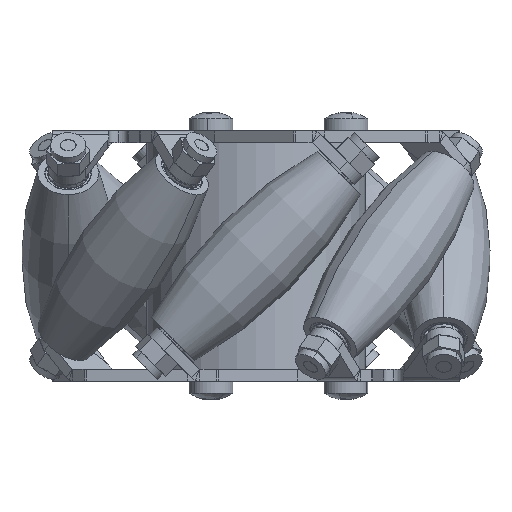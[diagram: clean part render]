
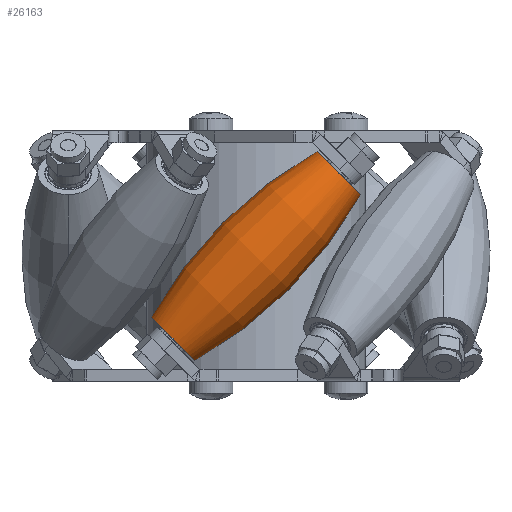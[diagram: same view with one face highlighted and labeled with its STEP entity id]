
A CAD part, left-side view. The second image highlights one B-rep face of the part: STEP entity #26163.
In plain terms, the highlighted face is a revolution surface.
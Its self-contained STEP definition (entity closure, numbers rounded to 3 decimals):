
#25264 = PLANE('',#25265);
#25265 = AXIS2_PLACEMENT_3D('',#25266,#25267,#25268);
#25266 = CARTESIAN_POINT('',(-10.607,-27.,-10.607));
#25267 = DIRECTION('',(-0.707,0.,
    -0.707));
#25268 = DIRECTION('',(0.707,0.,-0.707
    ));
#26045 = PLANE('',#26046);
#26046 = AXIS2_PLACEMENT_3D('',#26047,#26048,#26049);
#26047 = CARTESIAN_POINT('',(10.607,-27.,10.607));
#26048 = DIRECTION('',(0.707,0.,0.707)
  );
#26049 = DIRECTION('',(-0.707,0.,
    0.707));
#26092 = EDGE_CURVE('',#26093,#26095,#26097,.T.);
#26093 = VERTEX_POINT('',#26094);
#26094 = CARTESIAN_POINT('',(7.838,-24.,13.375));
#26095 = VERTEX_POINT('',#26096);
#26096 = CARTESIAN_POINT('',(13.375,-24.,7.838));
#26097 = SURFACE_CURVE('',#26098,(#26103,#26110),.PCURVE_S1.);
#26098 = CIRCLE('',#26099,3.915);
#26099 = AXIS2_PLACEMENT_3D('',#26100,#26101,#26102);
#26100 = CARTESIAN_POINT('',(10.607,-24.,10.607));
#26101 = DIRECTION('',(0.707,0.,0.707)
  );
#26102 = DIRECTION('',(-0.707,0.,
    0.707));
#26103 = PCURVE('',#26045,#26104);
#26104 = DEFINITIONAL_REPRESENTATION('',(#26105),#26109);
#26105 = CIRCLE('',#26106,3.915);
#26106 = AXIS2_PLACEMENT_2D('',#26107,#26108);
#26107 = CARTESIAN_POINT('',(0.,-3.));
#26108 = DIRECTION('',(1.,0.));
#26109 = ( GEOMETRIC_REPRESENTATION_CONTEXT(2) 
PARAMETRIC_REPRESENTATION_CONTEXT() REPRESENTATION_CONTEXT('2D SPACE',''
  ) );
#26110 = PCURVE('',#26111,#26123);
#26111 = SURFACE_OF_REVOLUTION('',#26112,#26120);
#26112 = B_SPLINE_CURVE_WITH_KNOTS('',6,(#26113,#26114,#26115,#26116,
    #26117,#26118,#26119),.UNSPECIFIED.,.F.,.F.,(7,7),(2.865,
    3.418),.PIECEWISE_BEZIER_KNOTS.);
#26113 = CARTESIAN_POINT('',(-7.838,-24.,-13.375));
#26114 = CARTESIAN_POINT('',(-3.417,-24.,-10.906));
#26115 = CARTESIAN_POINT('',(0.733,-24.,-7.949));
#26116 = CARTESIAN_POINT('',(4.541,-24.,-4.541));
#26117 = CARTESIAN_POINT('',(7.949,-24.,-0.733));
#26118 = CARTESIAN_POINT('',(10.906,-24.,3.417));
#26119 = CARTESIAN_POINT('',(13.375,-24.,7.838));
#26120 = AXIS1_PLACEMENT('',#26121,#26122);
#26121 = CARTESIAN_POINT('',(0.,-24.,0.
    ));
#26122 = DIRECTION('',(-0.707,0.,
    -0.707));
#26123 = DEFINITIONAL_REPRESENTATION('',(#26124),#26128);
#26124 = LINE('',#26125,#26126);
#26125 = CARTESIAN_POINT('',(-3.142,3.418));
#26126 = VECTOR('',#26127,1.);
#26127 = DIRECTION('',(-1.,0.));
#26128 = ( GEOMETRIC_REPRESENTATION_CONTEXT(2) 
PARAMETRIC_REPRESENTATION_CONTEXT() REPRESENTATION_CONTEXT('2D SPACE',''
  ) );
#26145 = SURFACE_OF_REVOLUTION('',#26146,#26154);
#26146 = B_SPLINE_CURVE_WITH_KNOTS('',6,(#26147,#26148,#26149,#26150,
    #26151,#26152,#26153),.UNSPECIFIED.,.F.,.F.,(7,7),(2.865,
    3.418),.PIECEWISE_BEZIER_KNOTS.);
#26147 = CARTESIAN_POINT('',(-7.838,-24.,-13.375));
#26148 = CARTESIAN_POINT('',(-3.417,-24.,-10.906));
#26149 = CARTESIAN_POINT('',(0.733,-24.,-7.949));
#26150 = CARTESIAN_POINT('',(4.541,-24.,-4.541));
#26151 = CARTESIAN_POINT('',(7.949,-24.,-0.733));
#26152 = CARTESIAN_POINT('',(10.906,-24.,3.417));
#26153 = CARTESIAN_POINT('',(13.375,-24.,7.838));
#26154 = AXIS1_PLACEMENT('',#26155,#26156);
#26155 = CARTESIAN_POINT('',(0.,-24.,0.
    ));
#26156 = DIRECTION('',(-0.707,0.,
    -0.707));
#26163 = ADVANCED_FACE('',(#26164),#26111,.F.);
#26164 = FACE_BOUND('',#26165,.T.);
#26165 = EDGE_LOOP('',(#26166,#26190,#26218,#26240));
#26166 = ORIENTED_EDGE('',*,*,#26167,.T.);
#26167 = EDGE_CURVE('',#26093,#26168,#26170,.T.);
#26168 = VERTEX_POINT('',#26169);
#26169 = CARTESIAN_POINT('',(-13.375,-24.,-7.838));
#26170 = SURFACE_CURVE('',#26171,(#26176,#26183),.PCURVE_S1.);
#26171 = CIRCLE('',#26172,55.);
#26172 = AXIS2_PLACEMENT_3D('',#26173,#26174,#26175);
#26173 = CARTESIAN_POINT('',(34.648,-24.,-34.648));
#26174 = DIRECTION('',(0.,-1.,0.));
#26175 = DIRECTION('',(0.,0.,-1.));
#26176 = PCURVE('',#26111,#26177);
#26177 = DEFINITIONAL_REPRESENTATION('',(#26178),#26182);
#26178 = LINE('',#26179,#26180);
#26179 = CARTESIAN_POINT('',(-3.142,7.069));
#26180 = VECTOR('',#26181,1.);
#26181 = DIRECTION('',(0.,-1.));
#26182 = ( GEOMETRIC_REPRESENTATION_CONTEXT(2) 
PARAMETRIC_REPRESENTATION_CONTEXT() REPRESENTATION_CONTEXT('2D SPACE',''
  ) );
#26183 = PCURVE('',#26145,#26184);
#26184 = DEFINITIONAL_REPRESENTATION('',(#26185),#26189);
#26185 = LINE('',#26186,#26187);
#26186 = CARTESIAN_POINT('',(-3.142,7.069));
#26187 = VECTOR('',#26188,1.);
#26188 = DIRECTION('',(-0.,-1.));
#26189 = ( GEOMETRIC_REPRESENTATION_CONTEXT(2) 
PARAMETRIC_REPRESENTATION_CONTEXT() REPRESENTATION_CONTEXT('2D SPACE',''
  ) );
#26190 = ORIENTED_EDGE('',*,*,#26191,.T.);
#26191 = EDGE_CURVE('',#26168,#26192,#26194,.T.);
#26192 = VERTEX_POINT('',#26193);
#26193 = CARTESIAN_POINT('',(-7.838,-24.,-13.375));
#26194 = SURFACE_CURVE('',#26195,(#26200,#26207),.PCURVE_S1.);
#26195 = CIRCLE('',#26196,3.915);
#26196 = AXIS2_PLACEMENT_3D('',#26197,#26198,#26199);
#26197 = CARTESIAN_POINT('',(-10.607,-24.,-10.607));
#26198 = DIRECTION('',(0.707,0.,0.707)
  );
#26199 = DIRECTION('',(-0.707,0.,
    0.707));
#26200 = PCURVE('',#26111,#26201);
#26201 = DEFINITIONAL_REPRESENTATION('',(#26202),#26206);
#26202 = LINE('',#26203,#26204);
#26203 = CARTESIAN_POINT('',(-3.142,2.865));
#26204 = VECTOR('',#26205,1.);
#26205 = DIRECTION('',(-1.,0.));
#26206 = ( GEOMETRIC_REPRESENTATION_CONTEXT(2) 
PARAMETRIC_REPRESENTATION_CONTEXT() REPRESENTATION_CONTEXT('2D SPACE',''
  ) );
#26207 = PCURVE('',#25264,#26208);
#26208 = DEFINITIONAL_REPRESENTATION('',(#26209),#26217);
#26209 = ( BOUNDED_CURVE() B_SPLINE_CURVE(2,(#26210,#26211,#26212,#26213
    ,#26214,#26215,#26216),.UNSPECIFIED.,.T.,.F.) 
B_SPLINE_CURVE_WITH_KNOTS((1,2,2,2,2,1),(-2.094,0.,
    2.094,4.189,6.283,8.378),
.UNSPECIFIED.) CURVE() GEOMETRIC_REPRESENTATION_ITEM() 
RATIONAL_B_SPLINE_CURVE((1.,0.5,1.,0.5,1.,0.5,1.)) REPRESENTATION_ITEM(
  '') );
#26210 = CARTESIAN_POINT('',(-3.915,-3.));
#26211 = CARTESIAN_POINT('',(-3.915,3.781));
#26212 = CARTESIAN_POINT('',(1.958,0.391));
#26213 = CARTESIAN_POINT('',(7.83,-3.));
#26214 = CARTESIAN_POINT('',(1.958,-6.391));
#26215 = CARTESIAN_POINT('',(-3.915,-9.781));
#26216 = CARTESIAN_POINT('',(-3.915,-3.));
#26217 = ( GEOMETRIC_REPRESENTATION_CONTEXT(2) 
PARAMETRIC_REPRESENTATION_CONTEXT() REPRESENTATION_CONTEXT('2D SPACE',''
  ) );
#26218 = ORIENTED_EDGE('',*,*,#26219,.F.);
#26219 = EDGE_CURVE('',#26095,#26192,#26220,.T.);
#26220 = SURFACE_CURVE('',#26221,(#26226,#26233),.PCURVE_S1.);
#26221 = CIRCLE('',#26222,55.);
#26222 = AXIS2_PLACEMENT_3D('',#26223,#26224,#26225);
#26223 = CARTESIAN_POINT('',(-34.648,-24.,34.648));
#26224 = DIRECTION('',(0.,1.,0.));
#26225 = DIRECTION('',(0.,0.,1.));
#26226 = PCURVE('',#26111,#26227);
#26227 = DEFINITIONAL_REPRESENTATION('',(#26228),#26232);
#26228 = LINE('',#26229,#26230);
#26229 = CARTESIAN_POINT('',(-6.283,5.498));
#26230 = VECTOR('',#26231,1.);
#26231 = DIRECTION('',(-0.,-1.));
#26232 = ( GEOMETRIC_REPRESENTATION_CONTEXT(2) 
PARAMETRIC_REPRESENTATION_CONTEXT() REPRESENTATION_CONTEXT('2D SPACE',''
  ) );
#26233 = PCURVE('',#26145,#26234);
#26234 = DEFINITIONAL_REPRESENTATION('',(#26235),#26239);
#26235 = LINE('',#26236,#26237);
#26236 = CARTESIAN_POINT('',(-0.,5.498));
#26237 = VECTOR('',#26238,1.);
#26238 = DIRECTION('',(-0.,-1.));
#26239 = ( GEOMETRIC_REPRESENTATION_CONTEXT(2) 
PARAMETRIC_REPRESENTATION_CONTEXT() REPRESENTATION_CONTEXT('2D SPACE',''
  ) );
#26240 = ORIENTED_EDGE('',*,*,#26092,.F.);
